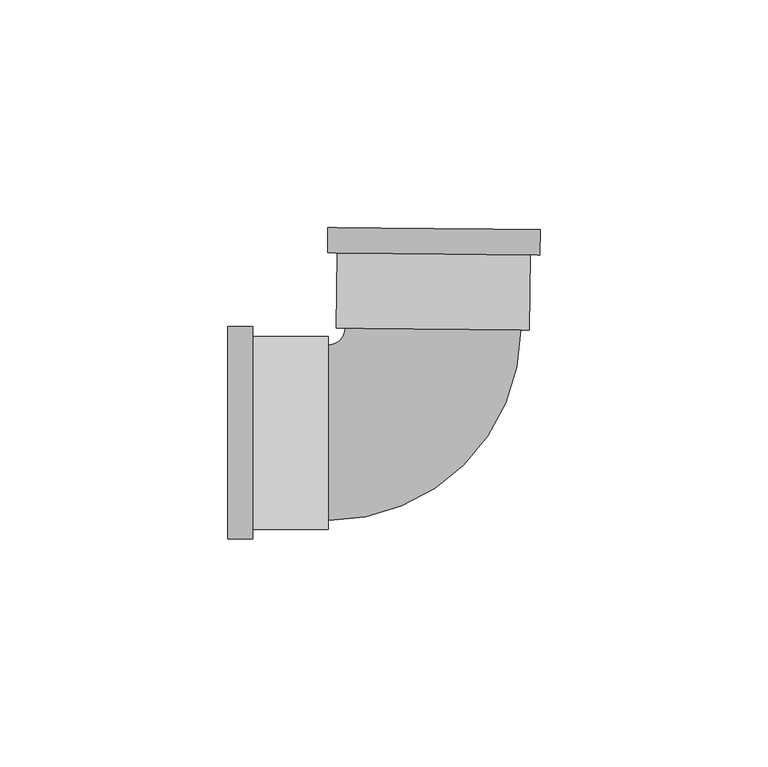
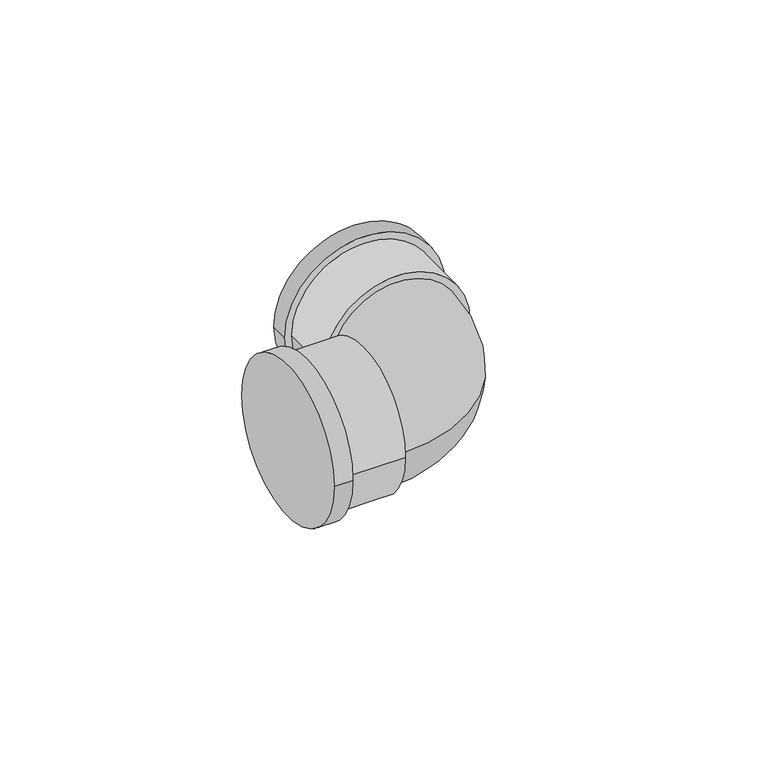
"""IFC4 building model written with IfcOpenShell, lengths in millimetres: pipe fitting geometry, Cotovelo - PVC - CW : Padrão."""

from ifc_helpers import new_model, si_unit, point, frame, origin, place, context, project, spatial, circle_curve, ellipse_curve, trimmed, source, transform, mapped, element, save
from ifc_brep_helpers import plane_surface, cylinder_surface, revolved_surface, advanced_brep


def pipe_fitting_0c296126(model_context):
    return source(origin(), model_context, "Body", "AdvancedBrep", [
        advanced_brep(
        [(-44.7774702, -23.2925, 0.0), (-44.7774702, 23.2925, 0.0), (-39.2774702, -23.2925, 0.0), (-39.2774702, 23.2925, 0.0), (-39.2774702, -21.175, 0.0), (-39.2774702, 21.175, 0.0), (-22.7774702, 21.175, 0.0), (-22.7774702, -21.175, 0.0), (-22.7774702, -19.25, 0.0), (-22.7774702, 19.25, 0.0), (-19.0276474, 22.9635425, 0.0), (19.4705331, 22.589245, 0.0), (21.3954421, 22.5705301, 0.0), (-20.9525564, 22.9822573, 0.0), (-22.8560721, 45.001804, 0.0), (23.7267263, 44.5489041, 0.0), (21.5558553, 39.0697504, 0.0), (-20.7921433, 39.4814775, 0.0), (-22.9095432, 39.5020639, 0.0), (23.6732552, 39.049164, 0.0)],
        [
            (0, 1, circle_curve(frame((-44.7774702, 0.0, 0.0), z_axis=(-1.0, 0.0, 0.0), x_axis=(0.0, 1.0, 0.0)), 23.2925)),
            (1, 0, circle_curve(frame((-44.7774702, 0.0, 0.0), z_axis=(-1.0, 0.0, 0.0), x_axis=(0.0, 1.0, 0.0)), 23.2925)),
            (2, 3, circle_curve(frame((-39.2774702, 0.0, 0.0), z_axis=(1.0, 0.0, 0.0), x_axis=(0.0, 1.0, 0.0)), 23.2925)),
            (3, 2, circle_curve(frame((-39.2774702, 0.0, 0.0), z_axis=(1.0, 0.0, 0.0), x_axis=(0.0, 1.0, 0.0)), 23.2925)),
            (4, 5, circle_curve(frame((-39.2774702, 0.0, 0.0), z_axis=(-1.0, 0.0, 0.0), x_axis=(0.0, -1.0, 0.0)), 21.175)),
            (5, 4, circle_curve(frame((-39.2774702, 0.0, 0.0), z_axis=(-1.0, 0.0, 0.0), x_axis=(0.0, -1.0, 0.0)), 21.175)),
            (0, 2),
            (3, 1),
            (6, 7, circle_curve(frame((-22.7774702, 0.0, 0.0), z_axis=(1.0, 0.0, 0.0), x_axis=(0.0, -1.0, 0.0)), 21.175)),
            (7, 6, circle_curve(frame((-22.7774702, 0.0, 0.0), z_axis=(1.0, 0.0, 0.0), x_axis=(0.0, -1.0, 0.0)), 21.175)),
            (8, 9, circle_curve(frame((-22.7774702, 0.0, 0.0), z_axis=(-1.0, 0.0, 0.0), x_axis=(0.0, 1.0, 0.0)), 19.25)),
            (9, 8, circle_curve(frame((-22.7774702, 0.0, 0.0), z_axis=(-1.0, 0.0, 0.0), x_axis=(0.0, 1.0, 0.0)), 19.25)),
            (6, 5),
            (4, 7),
            (10, 9, circle_curve(frame((-22.7774702, 23.0, 0.0), z_axis=(0.0, 0.0, -1.0), x_axis=(0.0, -1.0, 0.0)), 3.75)),
            (8, 11, circle_curve(frame((-22.7774702, 23.0, 0.0), z_axis=(0.0, 0.0, 1.0), x_axis=(0.0, -1.0, 0.0)), 42.25)),
            (11, 10, circle_curve(frame((0.2214428, 22.7763937, 0.0), z_axis=(-0.00972201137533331, -0.9999527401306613, 0.0), x_axis=(-0.9999527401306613, 0.00972201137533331, 0.0)), 19.25)),
            (10, 11, circle_curve(frame((0.2214428, 22.7763937, 0.0), z_axis=(-0.00972201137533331, -0.9999527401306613, 0.0), x_axis=(-0.9999527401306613, 0.00972201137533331, 0.0)), 19.25)),
            (12, 13, circle_curve(frame((0.2214428, 22.7763937, 0.0), z_axis=(-0.009722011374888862, -0.9999527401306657, 0.0), x_axis=(-0.9999527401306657, 0.009722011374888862, 0.0)), 21.175)),
            (13, 12, circle_curve(frame((0.2214428, 22.7763937, 0.0), z_axis=(-0.009722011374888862, -0.9999527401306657, 0.0), x_axis=(-0.9999527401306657, 0.009722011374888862, 0.0)), 21.175)),
            (14, 15, circle_curve(frame((0.4353271, 44.775354, 0.0), z_axis=(0.009722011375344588, 0.9999527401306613, 0.0), x_axis=(0.9999527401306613, -0.009722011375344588, 0.0)), 23.2925)),
            (15, 14, circle_curve(frame((0.4353271, 44.775354, 0.0), z_axis=(0.009722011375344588, 0.9999527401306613, 0.0), x_axis=(0.9999527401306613, -0.009722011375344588, 0.0)), 23.2925)),
            (12, 16),
            (16, 17, circle_curve(frame((0.381856, 39.275614, 0.0), z_axis=(-0.009722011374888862, -0.9999527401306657, 0.0), x_axis=(-0.9999527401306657, 0.009722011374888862, 0.0)), 21.175)),
            (17, 13),
            (17, 16, circle_curve(frame((0.381856, 39.275614, 0.0), z_axis=(-0.009722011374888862, -0.9999527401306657, 0.0), x_axis=(-0.9999527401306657, 0.009722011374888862, 0.0)), 21.175)),
            (18, 19, circle_curve(frame((0.381856, 39.275614, 0.0), z_axis=(-0.009722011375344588, -0.9999527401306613, 0.0), x_axis=(0.9999527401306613, -0.009722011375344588, 0.0)), 23.2925)),
            (19, 18, circle_curve(frame((0.381856, 39.275614, 0.0), z_axis=(-0.009722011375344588, -0.9999527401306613, 0.0), x_axis=(0.9999527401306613, -0.009722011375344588, 0.0)), 23.2925)),
            (14, 18),
            (19, 15),
        ],
        [
            plane_surface(frame((-44.7774702, 0.0, 0.0), z_axis=(-1.0, 0.0, 0.0), x_axis=(0.0, 0.0, 1.0))),
            plane_surface(frame((-39.2774702, 0.0, 0.0), z_axis=(1.0, 0.0, 0.0), x_axis=(0.0, 0.0, 1.0))),
            cylinder_surface(frame((-44.7774702, 0.0, 0.0), z_axis=(-1.0, 0.0, 0.0), x_axis=(0.0, 1.0, 0.0)), 23.2925),
            plane_surface(frame((-22.7774702, 0.0, 0.0), z_axis=(1.0, 0.0, 0.0), x_axis=(0.0, 0.0, 1.0))),
            cylinder_surface(frame((-22.7774702, 0.0, 0.0), z_axis=(1.0, 0.0, 0.0), x_axis=(0.0, -1.0, 0.0)), 21.175),
            revolved_surface(trimmed(ellipse_curve(frame((-22.7774702, 0.0, 0.0), z_axis=(-1.0, 0.0, 0.0), x_axis=(0.0, 1.0, 0.0)), 19.25, 19.25), [point((-22.7774702, -19.25, 0.0))], [point((-22.7774702, 19.25, 0.0))], True, "CARTESIAN"), (-22.7774702, 23.0, 0.0), (0.0, 0.0, 1.0)),
            revolved_surface(trimmed(ellipse_curve(frame((-22.7774702, 0.0, 0.0), z_axis=(-1.0, 0.0, 0.0), x_axis=(0.0, 1.0, 0.0)), 19.25, 19.25), [point((-22.7774702, 19.25, 0.0))], [point((-22.7774702, -19.25, 0.0))], True, "CARTESIAN"), (-22.7774702, 23.0, 0.0), (0.0, 0.0, 1.0)),
            plane_surface(frame((0.2214428, 22.7763937, 0.0), z_axis=(-0.009722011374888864, -0.9999527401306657, 0.0), x_axis=(0.0, 0.0, 1.0))),
            plane_surface(frame((0.4353271, 44.775354, 0.0), z_axis=(0.009722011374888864, 0.9999527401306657, 0.0), x_axis=(0.0, 0.0, 1.0))),
            cylinder_surface(frame((0.2214428, 22.7763937, 0.0), z_axis=(-0.009722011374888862, -0.9999527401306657, 0.0), x_axis=(-0.9999527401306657, 0.009722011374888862, 0.0)), 21.175),
            plane_surface(frame((0.381856, 39.275614, 0.0), z_axis=(-0.009722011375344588, -0.9999527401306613, 0.0), x_axis=(0.0, 0.0, 1.0))),
            cylinder_surface(frame((0.4353271, 44.775354, 0.0), z_axis=(0.009722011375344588, 0.9999527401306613, 0.0), x_axis=(0.9999527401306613, -0.009722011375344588, 0.0)), 23.2925),
        ],
        [
            (0, [[1, 2]]),
            (1, [[3, 4], [5, 6]]),
            (2, [[-1, 7, -4, 8]]),
            (2, [[-2, -8, -3, -7]]),
            (3, [[9, 10], [11, 12]]),
            (4, [[-9, 13, -5, 14]]),
            (4, [[-10, -14, -6, -13]]),
            (5, [[15, -11, 16, 17]]),
            (6, [[-15, 18, -16, -12]]),
            (7, [[19, 20], [-17, -18]]),
            (8, [[21, 22]]),
            (9, [[-19, 23, 24, 25]]),
            (9, [[-20, -25, 26, -23]]),
            (10, [[27, 28], [-24, -26]]),
            (11, [[-21, 29, -28, 30]]),
            (11, [[-22, -30, -27, -29]]),
        ],
    ),
    ])


if __name__ == "__main__":
    model = new_model("IFC4")
    model_context = context("Model", 3, world=origin())
    ifc_project = project(units=[si_unit("LENGTHUNIT", "METRE", prefix="MILLI")], contexts=[model_context])
    site = spatial("IfcSite", under=ifc_project)
    building = spatial("IfcBuilding", under=site)
    placement = place(None, origin())
    pipe_fitting_shape = pipe_fitting_0c296126(model_context)
    element("IfcPipeFitting", 1, ObjectType="Cotovelo - PVC - CW : Padrão", at=placement, inside=building, context=model_context, shape_type="MappedRepresentation", body=[
        mapped(pipe_fitting_shape, transform((0.0, 0.0, 0.0), x_axis=(1.0, 0.0, 0.0), y_axis=(0.0, 1.0, 0.0), z_axis=(0.0, 0.0, 1.0))),
    ])
    save(model, "model.ifc")
